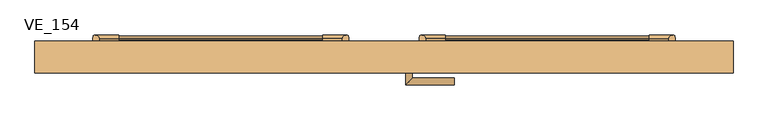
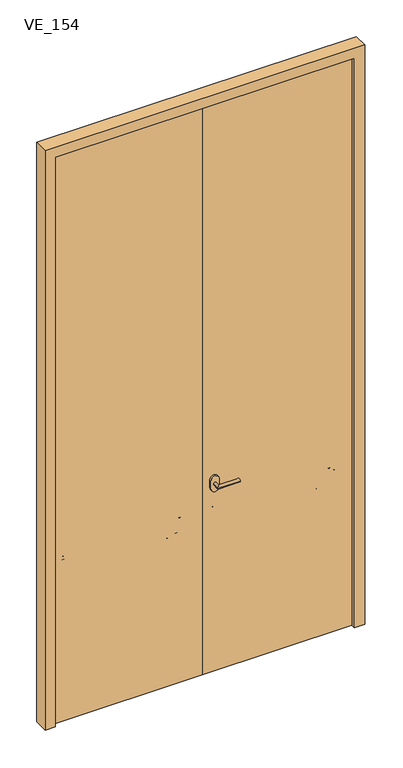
"""IFC4 building model written with IfcOpenShell, lengths in millimetres: door geometry, TRP_CP_ARC_PO_2B_RE : VE_154."""

import ifcopenshell
import ifcopenshell.guid

model = None  # the IFC model being written
_history = None  # IfcOwnerHistory: only IFC2X3 demands one
_inside = {}  # id of a spatial element -> (the spatial element, [elements in it])
_under = {}  # id of a project, library or spatial element -> (it, [spatial elements below it])
_declared = {}  # id of a project -> (the project, [libraries it declares])
_typed = {}  # id of a type object -> (the type object, [elements of that type])
_made_of = {}  # id of a material, layer set ... -> (it, [elements and type objects made of it])


def new_model(schema):
    """Start an empty IFC model of exactly this schema.

    Asked for "IFC4X3", IfcOpenShell would pick the latest addendum, in which some entities
    have other attributes; the version numbers below select the first issue.
    IFC2X3 requires an IfcOwnerHistory on every rooted entity: one is made here for all.
    """
    global model, _history
    if schema == "IFC4X3":
        model = ifcopenshell.file(schema_version=(4, 3, 0, 0))
    else:
        model = ifcopenshell.file(schema=schema)
    _inside.clear()
    _under.clear()
    _declared.clear()
    _typed.clear()
    _made_of.clear()
    _history = None
    if model.schema == "IFC2X3":
        org = make("IfcOrganization", Name="unknown")
        user = make(
            "IfcPersonAndOrganization",
            ThePerson=make("IfcPerson", FamilyName="unknown"),
            TheOrganization=org,
        )
        app = make(
            "IfcApplication",
            ApplicationDeveloper=org,
            Version="unknown",
            ApplicationFullName="unknown",
            ApplicationIdentifier="unknown",
        )
        _history = make(
            "IfcOwnerHistory",
            OwningUser=user,
            OwningApplication=app,
            ChangeAction="ADDED",
            CreationDate=0,
        )
    return model


def make(cls, **values):
    """One entity of the class cls with the attributes given. An attribute that is None is left unset."""
    return model.create_entity(
        cls, **{name: value for name, value in values.items() if value is not None}
    )


def rooted(cls, **values):
    """An entity with a GlobalId (a new one), such as an element, a storey or a relation."""
    return make(cls, GlobalId=ifcopenshell.guid.new(), OwnerHistory=_history, **values)


def si_unit(unit_type, name, prefix=None):
    """IfcSIUnit, for example si_unit("LENGTHUNIT", "METRE", prefix="MILLI")."""
    return make("IfcSIUnit", UnitType=unit_type, Prefix=prefix, Name=name)


def assignment(units):
    """IfcUnitAssignment: the units of a project."""
    return None if units is None else make("IfcUnitAssignment", Units=units)


def point(xyz):
    """IfcCartesianPoint."""
    return None if xyz is None else make("IfcCartesianPoint", Coordinates=xyz)


def direction(xyz):
    """IfcDirection."""
    return None if xyz is None else make("IfcDirection", DirectionRatios=xyz)


def frame(location, z_axis=None, x_axis=None):
    """IfcAxis2Placement3D, a coordinate frame: its origin and axes. An axis left out is left unset."""
    return make(
        "IfcAxis2Placement3D",
        Location=point(location),
        Axis=direction(z_axis),
        RefDirection=direction(x_axis),
    )


def frame_2d(location, x_axis=None):
    """IfcAxis2Placement2D, a coordinate frame in the plane: its origin and x axis."""
    return make(
        "IfcAxis2Placement2D", Location=point(location), RefDirection=direction(x_axis)
    )


def origin():
    """The frame at (0, 0, 0) with its axes left unset."""
    return frame((0.0, 0.0, 0.0))


def origin_with_axes():
    """The frame at (0, 0, 0) with the z axis (0, 0, 1) and the x axis (1, 0, 0) written out."""
    return frame((0.0, 0.0, 0.0), z_axis=(0.0, 0.0, 1.0), x_axis=(1.0, 0.0, 0.0))


def place(relative_to, where):
    """IfcLocalPlacement: puts the frame where relative to a parent placement (None: the world)."""
    return make(
        "IfcLocalPlacement", PlacementRelTo=relative_to, RelativePlacement=where
    )


def context(
    kind, dimensions, precision=None, world=None, true_north=None, identifier=None
):
    """IfcGeometricRepresentationContext, for example the 3D "Model" context."""
    return make(
        "IfcGeometricRepresentationContext",
        ContextIdentifier=identifier,
        ContextType=kind,
        CoordinateSpaceDimension=dimensions,
        Precision=precision,
        WorldCoordinateSystem=world,
        TrueNorth=true_north,
    )


def project(units=None, contexts=None):
    """IfcProject with its units and contexts."""
    return rooted(
        "IfcProject",
        Name="project",
        RepresentationContexts=contexts,
        UnitsInContext=assignment(units),
    )


def spatial(cls, under=None, at=None, **own):
    """A site, building, storey or space (cls), placed at a placement, below another one or the project."""
    s = rooted(cls, ObjectPlacement=at, **own)
    if under is not None:
        _under.setdefault(under.id(), (under, []))[1].append(s)
    return s


def polyline(points):
    """IfcPolyline through the points."""
    return make("IfcPolyline", Points=[point(p) for p in points])


def circle_curve(where, radius):
    """IfcCircle in the frame where."""
    return make("IfcCircle", Position=where, Radius=radius)


def ellipse_curve(where, semi_axis1, semi_axis2):
    """IfcEllipse in the frame where."""
    return make(
        "IfcEllipse", Position=where, SemiAxis1=semi_axis1, SemiAxis2=semi_axis2
    )


def trimmed(basis, trim1, trim2, sense, master):
    """IfcTrimmedCurve: the piece of a basis curve between two trims."""
    return make(
        "IfcTrimmedCurve",
        BasisCurve=basis,
        Trim1=trim1,
        Trim2=trim2,
        SenseAgreement=sense,
        MasterRepresentation=master,
    )


def segment(curve, same_sense, transition):
    """IfcCompositeCurveSegment."""
    return make(
        "IfcCompositeCurveSegment",
        Transition=transition,
        SameSense=same_sense,
        ParentCurve=curve,
    )


def composite_curve(segments, self_intersect=None):
    """IfcCompositeCurve: segments joined end to end."""
    return make("IfcCompositeCurve", Segments=segments, SelfIntersect=self_intersect)


def outline(outer, holes=None, kind="AREA"):
    """IfcArbitraryClosedProfileDef: a profile drawn as a closed curve; with holes, ...WithVoids."""
    if holes is None:
        return make("IfcArbitraryClosedProfileDef", ProfileType=kind, OuterCurve=outer)
    return make(
        "IfcArbitraryProfileDefWithVoids",
        ProfileType=kind,
        OuterCurve=outer,
        InnerCurves=holes,
    )


def extrude(swept, where, along, depth):
    """IfcExtrudedAreaSolid: the profile swept, set in the frame where, extruded along a direction by depth."""
    return make(
        "IfcExtrudedAreaSolid",
        SweptArea=swept,
        Position=where,
        ExtrudedDirection=direction(along),
        Depth=depth,
    )


def shape(context_of_items, identifier, shape_type, items):
    """IfcShapeRepresentation: the items that make up one representation, for example the "Body"."""
    return make(
        "IfcShapeRepresentation",
        ContextOfItems=context_of_items,
        RepresentationIdentifier=identifier,
        RepresentationType=shape_type,
        Items=items,
    )


def source(mapping_origin, context_of_items, identifier, shape_type, items):
    """IfcRepresentationMap: a shape defined once, which mapped items show again and again."""
    return make(
        "IfcRepresentationMap",
        MappingOrigin=mapping_origin,
        MappedRepresentation=shape(context_of_items, identifier, shape_type, items),
    )


def transform(
    local_origin,
    x_axis=None,
    y_axis=None,
    z_axis=None,
    scale=None,
    scale2=None,
    scale3=None,
    uniform=True,
):
    """IfcCartesianTransformationOperator3D, or its non-uniform kind. x_axis, y_axis, z_axis: its Axis1, 2, 3."""
    if uniform:
        return make(
            "IfcCartesianTransformationOperator3D",
            Axis1=direction(x_axis),
            Axis2=direction(y_axis),
            LocalOrigin=point(local_origin),
            Scale=scale,
            Axis3=direction(z_axis),
        )
    return make(
        "IfcCartesianTransformationOperator3DnonUniform",
        Axis1=direction(x_axis),
        Axis2=direction(y_axis),
        LocalOrigin=point(local_origin),
        Scale=scale,
        Axis3=direction(z_axis),
        Scale2=scale2,
        Scale3=scale3,
    )


def mapped(mapping_source, mapping_target):
    """IfcMappedItem: shows the shape of a source again, moved by a transform."""
    return make(
        "IfcMappedItem", MappingSource=mapping_source, MappingTarget=mapping_target
    )


def made_of(thing, what):
    """Note that an element or type object is made of a material, layer set ...; save() writes the relation."""
    if what is not None:
        _made_of.setdefault(what.id(), (what, []))[1].append(thing)
    return thing


def element(
    cls,
    number,
    at=None,
    inside=None,
    cuts=None,
    type_object=None,
    material=None,
    context=None,
    identifier="Body",
    shape_type=None,
    held_by="IfcProductDefinitionShape",
    body=None,
    shapes=None,
    **own,
):
    """One element of the class cls, such as IfcWall. Its Tag is "e" and its number.

    at: its placement. inside: the storey or other place that contains it. cuts: it is an
    opening in that element (IfcRelVoidsElement). A single representation is given by context,
    identifier, shape_type and body (its items); several are given by shapes. held_by: the class
    of the entity that holds the representations. save() writes the other relations.
    """
    e = rooted(cls, Tag="e%d" % number, ObjectPlacement=at, **own)
    if body is not None:
        shapes = [shape(context, identifier, shape_type, body)]
    if shapes is not None:
        e.Representation = make(held_by, Representations=shapes)
    if inside is not None:
        _inside.setdefault(inside.id(), (inside, []))[1].append(e)
    if cuts is not None:
        rooted(
            "IfcRelVoidsElement", RelatingBuildingElement=cuts, RelatedOpeningElement=e
        )
    if type_object is not None:
        _typed.setdefault(type_object.id(), (type_object, []))[1].append(e)
    return made_of(e, material)


def aggregate(whole, parts):
    """IfcRelAggregates: a whole, such as a stair, and the parts it consists of."""
    return rooted("IfcRelAggregates", RelatingObject=whole, RelatedObjects=parts)


def save(model, path):
    """Write the relations noted so far, then the file.

    IfcRelAggregates (storeys below a building ...), IfcRelContainedInSpatialStructure (elements
    in a storey), IfcRelDefinesByType, IfcRelAssociatesMaterial and IfcRelDeclares: one each for
    every whole, place, type object, material and project.
    """
    for whole, parts in _under.values():
        aggregate(whole, parts)
    for where, things in _inside.values():
        rooted(
            "IfcRelContainedInSpatialStructure",
            RelatedElements=things,
            RelatingStructure=where,
        )
    for kind, things in _typed.values():
        rooted("IfcRelDefinesByType", RelatedObjects=things, RelatingType=kind)
    for what, things in _made_of.values():
        rooted("IfcRelAssociatesMaterial", RelatedObjects=things, RelatingMaterial=what)
    for by, libraries in _declared.values():
        rooted("IfcRelDeclares", RelatingContext=by, RelatedDefinitions=libraries)
    model.write(path)


def plane_surface(at):
    """IfcPlane: the flat surface through the origin of the frame at, square to its z axis."""
    return make("IfcPlane", Position=at)


def cylinder_surface(at, radius):
    """IfcCylindricalSurface: all points at the distance radius from the z axis of the frame at."""
    return make("IfcCylindricalSurface", Position=at, Radius=radius)


def advanced_brep(points, edges, surfaces, faces):
    """IfcAdvancedBrep: a solid bounded by faces that lie on surfaces and meet in shared edges.

    An edge is (start, end): straight between two places in points (the first is 0);
    or (start, end, curve); or (start, end, curve, False) where it runs against its curve.
    A face is (place in surfaces, loops), or (place, loops, False) where it looks against
    its surface's normal. A loop lists edges by number (the first is 1), with a minus sign
    where the edge is run from its end to its start. The first loop is the outer one.
    """
    corners = [point(p) for p in points]
    vertices = [make("IfcVertexPoint", VertexGeometry=c) for c in corners]
    made = []
    for start, end, *more in edges:
        made.append(
            make(
                "IfcEdgeCurve",
                EdgeStart=vertices[start],
                EdgeEnd=vertices[end],
                EdgeGeometry=more[0] if more else make("IfcPolyline", Points=[corners[start], corners[end]]),
                SameSense=more[1] if len(more) > 1 else True,
            )
        )
    hull = []
    for where, loops, *sense in faces:
        bounds = []
        for j, loop in enumerate(loops):
            ring = [make("IfcOrientedEdge", EdgeElement=made[abs(k) - 1], Orientation=k > 0) for k in loop]
            bounds.append(
                make(
                    "IfcFaceOuterBound" if j == 0 else "IfcFaceBound",
                    Bound=make("IfcEdgeLoop", EdgeList=ring),
                    Orientation=True,
                )
            )
        hull.append(make("IfcAdvancedFace", Bounds=bounds, FaceSurface=surfaces[where], SameSense=sense[0] if sense else True))
    return make("IfcAdvancedBrep", Outer=make("IfcClosedShell", CfsFaces=hull))


def ve_154_32acc332(model_context):
    return source(origin(), model_context, "Body", "SolidModel", [
        advanced_brep(
        [(62.5, -25.0, 960.0), (47.5, -25.0, 960.0), (47.5, -60.8278773, 960.0), (62.5, -45.8278773, 960.0), (155.0, -45.8278773, 960.0), (155.0, -60.8278773, 960.0)],
        [
            (0, 1, circle_curve(frame((55.0, -25.0, 960.0), z_axis=(0.0, 1.0, 0.0), x_axis=(-1.0, 0.0, 0.0)), 7.5)),
            (1, 0, circle_curve(frame((55.0, -25.0, 960.0), z_axis=(0.0, 1.0, 0.0), x_axis=(-1.0, 0.0, 0.0)), 7.5)),
            (1, 2),
            (2, 3, ellipse_curve(frame((55.0, -53.3278773, 960.0), z_axis=(-0.7071067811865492, 0.7071067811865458, 0.0), x_axis=(0.7071067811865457, 0.7071067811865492, 0.0)), 10.6066017, 7.5)),
            (3, 0),
            (3, 2, ellipse_curve(frame((55.0, -53.3278773, 960.0), z_axis=(-0.7071067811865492, 0.7071067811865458, 0.0), x_axis=(0.7071067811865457, 0.7071067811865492, 0.0)), 10.6066017, 7.5)),
            (4, 5, circle_curve(frame((155.0, -53.3278773, 960.0), z_axis=(1.0, 0.0, 0.0), x_axis=(0.0, -1.0, 0.0)), 7.5)),
            (5, 4, circle_curve(frame((155.0, -53.3278773, 960.0), z_axis=(1.0, 0.0, 0.0), x_axis=(0.0, -1.0, 0.0)), 7.5)),
            (2, 5),
            (4, 3),
        ],
        [
            plane_surface(frame((55.0, -25.0, 960.0), z_axis=(0.0, 1.0, 0.0), x_axis=(0.0, 0.0, 1.0))),
            cylinder_surface(frame((55.0, -25.0, 960.0), z_axis=(0.0, 1.0, 0.0), x_axis=(-1.0, 0.0, 0.0)), 7.5),
            plane_surface(frame((155.0, -53.3278773, 960.0), z_axis=(1.0, 0.0, 0.0), x_axis=(0.0, 0.0, 1.0))),
            cylinder_surface(frame((55.0, -53.3278773, 960.0), z_axis=(-1.0, 0.0, 0.0), x_axis=(0.0, -1.0, 0.0)), 7.5),
        ],
        [
            (0, [[1, 2]]),
            (1, [[3, 4, 5, -2]]),
            (1, [[-5, 6, -3, -1]]),
            (2, [[7, 8]]),
            (3, [[9, -7, 10, -4]]),
            (3, [[-10, -8, -9, -6]]),
        ],
    ),
        extrude(outline(composite_curve([segment(polyline([(980.0, 35.0), (940.0, 35.0)]), True, "CONTINUOUS"), segment(trimmed(circle_curve(frame_2d((940.0, 55.0)), 20.0), [point((940.0, 35.0))], [point((940.0, 75.0))], False, "CARTESIAN"), True, "CONTINUOUS"), segment(polyline([(940.0, 75.0), (980.0, 75.0)]), True, "CONTINUOUS"), segment(trimmed(circle_curve(frame_2d((980.0, 55.0)), 20.0), [point((980.0, 75.0))], [point((980.0, 35.0))], False, "CARTESIAN"), True, "CONTINUOUS")], self_intersect=False)), frame((0.0, -25.0, 0.0), z_axis=(0.0, 1.0, 0.0), x_axis=(0.0, 0.0, 1.0)), (0.0, 0.0, 1.0), 10.0),
        extrude(outline(composite_curve([segment(trimmed(circle_curve(frame_2d((42.7909535, 712.1255149)), 4.0), [point((42.7909535, 708.1255149))], [point((42.7909535, 716.1255149))], False, "CARTESIAN"), True, "CONTINUOUS"), segment(trimmed(circle_curve(frame_2d((42.7909535, 712.1255149)), 4.0), [point((42.7909535, 716.1255149))], [point((42.7909535, 708.1255149))], False, "CARTESIAN"), True, "CONTINUOUS")], self_intersect=False)), frame((135.0, 0.0, 0.0), z_axis=(1.0, 0.0, 0.0), x_axis=(0.0, 1.0, 0.0)), (0.0, 0.0, 1.0), 450.0),
        advanced_brep(
        [(70.0, 22.2081415, 806.9003665), (70.0, 25.137835, 793.2103374), (78.0, 25.137835, 793.2103374), (92.0, 22.2081415, 806.9003665), (78.0, 43.9715789, 705.2030077), (92.0, 41.0418854, 718.8930367), (135.0, 41.0418854, 718.8930367), (135.0, 43.9715789, 705.2030077)],
        [
            (0, 1, circle_curve(frame((70.0, 23.6729883, 800.055352), z_axis=(-1.0, 0.0, 0.0), x_axis=(0.0, 0.20926382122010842, -0.9778592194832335)), 7.0)),
            (1, 0, circle_curve(frame((70.0, 23.6729883, 800.055352), z_axis=(-1.0, 0.0, 0.0), x_axis=(0.0, 0.20926382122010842, -0.9778592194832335)), 7.0)),
            (1, 2),
            (2, 3, ellipse_curve(frame((85.0, 23.6729883, 800.055352), z_axis=(-0.7071067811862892, -0.14797186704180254, 0.6914508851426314), x_axis=(-0.7071067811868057, 0.14797186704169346, -0.6914508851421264)), 9.8994949, 7.0)),
            (3, 0),
            (3, 2, ellipse_curve(frame((85.0, 23.6729883, 800.055352), z_axis=(-0.7071067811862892, -0.14797186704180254, 0.6914508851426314), x_axis=(-0.7071067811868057, 0.14797186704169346, -0.6914508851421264)), 9.8994949, 7.0)),
            (2, 4),
            (4, 5, ellipse_curve(frame((85.0, 42.5067322, 712.0480222), z_axis=(-0.7071067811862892, -0.1479718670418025, 0.6914508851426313), x_axis=(0.7071067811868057, -0.14797186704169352, 0.6914508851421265)), 9.8994949, 7.0)),
            (5, 3),
            (5, 4, ellipse_curve(frame((85.0, 42.5067322, 712.0480222), z_axis=(-0.7071067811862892, -0.1479718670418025, 0.6914508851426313), x_axis=(0.7071067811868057, -0.14797186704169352, 0.6914508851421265)), 9.8994949, 7.0)),
            (6, 7, circle_curve(frame((135.0, 42.5067322, 712.0480222), z_axis=(1.0, 0.0, 0.0), x_axis=(0.0, 0.2092638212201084, -0.9778592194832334)), 7.0)),
            (7, 6, circle_curve(frame((135.0, 42.5067322, 712.0480222), z_axis=(1.0, 0.0, 0.0), x_axis=(0.0, 0.2092638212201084, -0.9778592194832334)), 7.0)),
            (4, 7),
            (6, 5),
        ],
        [
            plane_surface(frame((70.0, -4.3595447, 794.056334), z_axis=(-1.0, 0.0, 0.0), x_axis=(0.0, 0.9778592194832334, 0.20926382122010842))),
            cylinder_surface(frame((70.0, 23.6729883, 800.055352), z_axis=(-1.0000000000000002, 0.0, 0.0), x_axis=(0.0, 0.20926382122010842, -0.9778592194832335)), 7.0),
            cylinder_surface(frame((85.0, 23.6729883, 800.055352), z_axis=(0.0, -0.20926382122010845, 0.9778592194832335), x_axis=(-1.0, 0.0, 0.0)), 7.0),
            plane_surface(frame((135.0, 14.4741992, 706.0490043), z_axis=(1.0, 0.0, 0.0), x_axis=(0.0, 0.9778592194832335, 0.2092638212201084))),
            cylinder_surface(frame((85.0, 42.5067322, 712.0480222), z_axis=(-1.0, 0.0, 0.0), x_axis=(0.0, 0.2092638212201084, -0.9778592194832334)), 7.0),
        ],
        [
            (0, [[1, 2]]),
            (1, [[-2, 3, 4, 5]]),
            (1, [[-1, -5, 6, -3]]),
            (2, [[-4, 7, 8, 9]]),
            (2, [[-6, -9, 10, -7]]),
            (3, [[11, 12]]),
            (4, [[-8, 13, -11, 14]]),
            (4, [[-10, -14, -12, -13]]),
        ],
    ),
        advanced_brep(
        [(650.0, 25.137835, 793.2103374), (650.0, 22.2081415, 806.9003665), (642.0, 25.137835, 793.2103374), (628.0, 22.2081415, 806.9003665), (642.0, 43.9715789, 705.2030077), (628.0, 41.0418854, 718.8930367), (585.0, 43.9715789, 705.2030077), (585.0, 41.0418854, 718.8930367)],
        [
            (0, 1, circle_curve(frame((650.0, 23.6729883, 800.055352), z_axis=(1.0, 0.0, 0.0), x_axis=(0.0, -0.20926382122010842, 0.9778592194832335)), 7.0)),
            (1, 0, circle_curve(frame((650.0, 23.6729883, 800.055352), z_axis=(1.0, 0.0, 0.0), x_axis=(0.0, -0.20926382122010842, 0.9778592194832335)), 7.0)),
            (0, 2),
            (2, 3, ellipse_curve(frame((635.0, 23.6729883, 800.055352), z_axis=(0.7071067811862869, -0.14797186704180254, 0.6914508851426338), x_axis=(0.7071067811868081, 0.14797186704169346, -0.6914508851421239)), 9.8994949, 7.0)),
            (3, 1),
            (3, 2, ellipse_curve(frame((635.0, 23.6729883, 800.055352), z_axis=(0.7071067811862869, -0.14797186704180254, 0.6914508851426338), x_axis=(0.7071067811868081, 0.14797186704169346, -0.6914508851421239)), 9.8994949, 7.0)),
            (2, 4),
            (4, 5, ellipse_curve(frame((635.0, 42.5067322, 712.0480222), z_axis=(0.7071067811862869, -0.14797186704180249, 0.6914508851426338), x_axis=(-0.7071067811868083, -0.1479718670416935, 0.691450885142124)), 9.8994949, 7.0)),
            (5, 3),
            (5, 4, ellipse_curve(frame((635.0, 42.5067322, 712.0480222), z_axis=(0.7071067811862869, -0.14797186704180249, 0.6914508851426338), x_axis=(-0.7071067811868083, -0.1479718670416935, 0.691450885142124)), 9.8994949, 7.0)),
            (6, 7, circle_curve(frame((585.0, 42.5067322, 712.0480222), z_axis=(-1.0, 0.0, 0.0), x_axis=(0.0, -0.20926382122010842, 0.9778592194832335)), 7.0)),
            (7, 6, circle_curve(frame((585.0, 42.5067322, 712.0480222), z_axis=(-1.0, 0.0, 0.0), x_axis=(0.0, -0.20926382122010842, 0.9778592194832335)), 7.0)),
            (4, 6),
            (7, 5),
        ],
        [
            plane_surface(frame((650.0, -4.3595447, 794.056334), z_axis=(1.0000000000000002, 0.0, 0.0), x_axis=(0.0, 0.9778592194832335, 0.20926382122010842))),
            cylinder_surface(frame((650.0, 23.6729883, 800.055352), z_axis=(1.0000000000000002, 0.0, 0.0), x_axis=(0.0, -0.20926382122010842, 0.9778592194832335)), 7.0),
            cylinder_surface(frame((635.0, 23.6729883, 800.055352), z_axis=(0.0, -0.20926382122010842, 0.9778592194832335), x_axis=(-1.0, 0.0, 0.0)), 7.0),
            plane_surface(frame((585.0, 14.4741992, 706.0490043), z_axis=(-1.0000000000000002, 0.0, 0.0), x_axis=(0.0, 0.9778592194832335, 0.20926382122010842))),
            cylinder_surface(frame((635.0, 42.5067322, 712.0480222), z_axis=(1.0000000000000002, 0.0, 0.0), x_axis=(0.0, -0.20926382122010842, 0.9778592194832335)), 7.0),
        ],
        [
            (0, [[1, 2]]),
            (1, [[-1, 3, 4, 5]]),
            (1, [[-2, -5, 6, -3]]),
            (2, [[-4, 7, 8, 9]]),
            (2, [[-6, -9, 10, -7]]),
            (3, [[11, 12]]),
            (4, [[-8, 13, -12, 14]]),
            (4, [[-10, -14, -11, -13]]),
        ],
    ),
        extrude(outline(composite_curve([segment(trimmed(circle_curve(frame_2d((23.7850211, 800.0)), 7.9999872), [point((23.7850211, 807.9999872))], [point((23.7850211, 792.0000128))], False, "CARTESIAN"), True, "CONTINUOUS"), segment(trimmed(circle_curve(frame_2d((23.7850211, 800.0)), 7.9999872), [point((23.7850211, 792.0000128))], [point((23.7850211, 807.9999872))], False, "CARTESIAN"), True, "CONTINUOUS")], self_intersect=False)), frame((65.0, 0.0, 0.0), z_axis=(1.0, 0.0, 0.0), x_axis=(0.0, 1.0, 0.0)), (0.0, 0.0, 1.0), 5.0),
        extrude(outline(composite_curve([segment(trimmed(circle_curve(frame_2d((23.7993127, 800.0)), 8.0), [point((23.7993127, 792.0))], [point((23.7993127, 808.0))], False, "CARTESIAN"), True, "CONTINUOUS"), segment(trimmed(circle_curve(frame_2d((23.7993127, 800.0)), 8.0), [point((23.7993127, 808.0))], [point((23.7993127, 792.0))], False, "CARTESIAN"), True, "CONTINUOUS")], self_intersect=False)), frame((650.0, 0.0, 0.0), z_axis=(1.0, 0.0, 0.0), x_axis=(0.0, 1.0, 0.0)), (0.0, 0.0, 1.0), 5.0),
        extrude(outline(composite_curve([segment(trimmed(circle_curve(frame_2d((-78.1832138, 800.0)), 113.1859235), [point((25.0, 846.5217978))], [point((25.0, 753.4782022))], False, "CARTESIAN"), True, "CONTINUOUS"), segment(polyline([(25.0, 753.4782022), (15.0, 753.4782022), (15.0, 846.5217978), (25.0, 846.5217978)]), True, "CONTINUOUS")], self_intersect=False)), frame((655.0, 0.0, 0.0), z_axis=(1.0, 0.0, 0.0), x_axis=(0.0, 1.0, 0.0)), (0.0, 0.0, 1.0), 30.0),
        extrude(outline(composite_curve([segment(trimmed(circle_curve(frame_2d((-78.1832138, 800.0)), 113.1859235), [point((25.0, 846.5217978))], [point((25.0, 753.4782022))], False, "CARTESIAN"), True, "CONTINUOUS"), segment(polyline([(25.0, 753.4782022), (15.0, 753.4782022), (15.0, 846.5217978), (25.0, 846.5217978)]), True, "CONTINUOUS")], self_intersect=False)), frame((35.0, 0.0, 0.0), z_axis=(1.0, 0.0, 0.0), x_axis=(0.0, 1.0, 0.0)), (0.0, 0.0, 1.0), 30.0),
        extrude(outline(composite_curve([segment(trimmed(circle_curve(frame_2d((42.7909535, 712.1255149)), 4.0), [point((42.7909535, 708.1255149))], [point((42.7909535, 716.1255149))], False, "CARTESIAN"), True, "CONTINUOUS"), segment(trimmed(circle_curve(frame_2d((42.7909535, 712.1255149)), 4.0), [point((42.7909535, 716.1255149))], [point((42.7909535, 708.1255149))], False, "CARTESIAN"), True, "CONTINUOUS")], self_intersect=False)), frame((-585.0, 0.0, 0.0), z_axis=(1.0, 0.0, 0.0), x_axis=(0.0, 1.0, 0.0)), (0.0, 0.0, 1.0), 450.0),
        advanced_brep(
        [(-70.0, 22.2081415, 806.9003665), (-70.0, 25.137835, 793.2103374), (-92.0, 22.2081415, 806.9003665), (-78.0, 25.137835, 793.2103374), (-92.0, 41.0418854, 718.8930367), (-78.0, 43.9715789, 705.2030077), (-135.0, 41.0418854, 718.8930367), (-135.0, 43.9715789, 705.2030077)],
        [
            (0, 1, circle_curve(frame((-70.0, 23.6729883, 800.055352), z_axis=(1.0, 0.0, 0.0), x_axis=(0.0, 0.20926382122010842, -0.9778592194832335)), 7.0)),
            (1, 0, circle_curve(frame((-70.0, 23.6729883, 800.055352), z_axis=(1.0, 0.0, 0.0), x_axis=(0.0, 0.20926382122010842, -0.9778592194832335)), 7.0)),
            (0, 2),
            (2, 3, ellipse_curve(frame((-85.0, 23.6729883, 800.055352), z_axis=(0.7071067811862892, -0.14797186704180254, 0.6914508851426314), x_axis=(0.7071067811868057, 0.14797186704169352, -0.6914508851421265)), 9.8994949, 7.0)),
            (3, 1),
            (3, 2, ellipse_curve(frame((-85.0, 23.6729883, 800.055352), z_axis=(0.7071067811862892, -0.14797186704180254, 0.6914508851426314), x_axis=(0.7071067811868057, 0.14797186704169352, -0.6914508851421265)), 9.8994949, 7.0)),
            (2, 4),
            (4, 5, ellipse_curve(frame((-85.0, 42.5067322, 712.0480222), z_axis=(0.7071067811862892, -0.1479718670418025, 0.6914508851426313), x_axis=(-0.7071067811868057, -0.14797186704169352, 0.6914508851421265)), 9.8994949, 7.0)),
            (5, 3),
            (5, 4, ellipse_curve(frame((-85.0, 42.5067322, 712.0480222), z_axis=(0.7071067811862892, -0.1479718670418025, 0.6914508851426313), x_axis=(-0.7071067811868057, -0.14797186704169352, 0.6914508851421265)), 9.8994949, 7.0)),
            (6, 7, circle_curve(frame((-135.0, 42.5067322, 712.0480222), z_axis=(-1.0, 0.0, 0.0), x_axis=(0.0, 0.2092638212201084, -0.9778592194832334)), 7.0)),
            (7, 6, circle_curve(frame((-135.0, 42.5067322, 712.0480222), z_axis=(-1.0, 0.0, 0.0), x_axis=(0.0, 0.2092638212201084, -0.9778592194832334)), 7.0)),
            (4, 6),
            (7, 5),
        ],
        [
            plane_surface(frame((-70.0, -4.3595447, 794.056334), z_axis=(1.0, 0.0, 0.0), x_axis=(0.0, 0.9778592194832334, 0.20926382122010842))),
            cylinder_surface(frame((-70.0, 23.6729883, 800.055352), z_axis=(1.0000000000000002, 0.0, 0.0), x_axis=(0.0, 0.20926382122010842, -0.9778592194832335)), 7.0),
            cylinder_surface(frame((-85.0, 23.6729883, 800.055352), z_axis=(0.0, -0.20926382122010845, 0.9778592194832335), x_axis=(1.0, 0.0, 0.0)), 7.0),
            plane_surface(frame((-135.0, 14.4741992, 706.0490043), z_axis=(-1.0, 0.0, 0.0), x_axis=(0.0, 0.9778592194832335, 0.2092638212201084))),
            cylinder_surface(frame((-85.0, 42.5067322, 712.0480222), z_axis=(1.0, 0.0, 0.0), x_axis=(0.0, 0.2092638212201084, -0.9778592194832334)), 7.0),
        ],
        [
            (0, [[1, 2]]),
            (1, [[3, 4, 5, -1]]),
            (1, [[-5, 6, -3, -2]]),
            (2, [[7, 8, 9, -4]]),
            (2, [[-9, 10, -7, -6]]),
            (3, [[11, 12]]),
            (4, [[13, -12, 14, -8]]),
            (4, [[-14, -11, -13, -10]]),
        ],
    ),
        advanced_brep(
        [(-650.0, 25.137835, 793.2103374), (-650.0, 22.2081415, 806.9003665), (-628.0, 22.2081415, 806.9003665), (-642.0, 25.137835, 793.2103374), (-628.0, 41.0418854, 718.8930367), (-642.0, 43.9715789, 705.2030077), (-585.0, 43.9715789, 705.2030077), (-585.0, 41.0418854, 718.8930367)],
        [
            (0, 1, circle_curve(frame((-650.0, 23.6729883, 800.055352), z_axis=(-1.0, 0.0, 0.0), x_axis=(0.0, -0.20926382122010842, 0.9778592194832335)), 7.0)),
            (1, 0, circle_curve(frame((-650.0, 23.6729883, 800.055352), z_axis=(-1.0, 0.0, 0.0), x_axis=(0.0, -0.20926382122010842, 0.9778592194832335)), 7.0)),
            (1, 2),
            (2, 3, ellipse_curve(frame((-635.0, 23.6729883, 800.055352), z_axis=(-0.7071067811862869, -0.14797186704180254, 0.6914508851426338), x_axis=(-0.7071067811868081, 0.14797186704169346, -0.6914508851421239)), 9.8994949, 7.0)),
            (3, 0),
            (3, 2, ellipse_curve(frame((-635.0, 23.6729883, 800.055352), z_axis=(-0.7071067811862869, -0.14797186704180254, 0.6914508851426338), x_axis=(-0.7071067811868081, 0.14797186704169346, -0.6914508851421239)), 9.8994949, 7.0)),
            (2, 4),
            (4, 5, ellipse_curve(frame((-635.0, 42.5067322, 712.0480222), z_axis=(-0.7071067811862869, -0.14797186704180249, 0.6914508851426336), x_axis=(0.7071067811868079, -0.14797186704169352, 0.6914508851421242)), 9.8994949, 7.0)),
            (5, 3),
            (5, 4, ellipse_curve(frame((-635.0, 42.5067322, 712.0480222), z_axis=(-0.7071067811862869, -0.14797186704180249, 0.6914508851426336), x_axis=(0.7071067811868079, -0.14797186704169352, 0.6914508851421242)), 9.8994949, 7.0)),
            (6, 7, circle_curve(frame((-585.0, 42.5067322, 712.0480222), z_axis=(1.0, 0.0, 0.0), x_axis=(0.0, -0.20926382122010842, 0.9778592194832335)), 7.0)),
            (7, 6, circle_curve(frame((-585.0, 42.5067322, 712.0480222), z_axis=(1.0, 0.0, 0.0), x_axis=(0.0, -0.20926382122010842, 0.9778592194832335)), 7.0)),
            (4, 7),
            (6, 5),
        ],
        [
            plane_surface(frame((-650.0, -4.3595447, 794.056334), z_axis=(-1.0000000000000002, 0.0, 0.0), x_axis=(0.0, 0.9778592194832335, 0.20926382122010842))),
            cylinder_surface(frame((-650.0, 23.6729883, 800.055352), z_axis=(-1.0000000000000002, 0.0, 0.0), x_axis=(0.0, -0.20926382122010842, 0.9778592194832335)), 7.0),
            cylinder_surface(frame((-635.0, 23.6729883, 800.055352), z_axis=(0.0, -0.20926382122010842, 0.9778592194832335), x_axis=(1.0, 0.0, 0.0)), 7.0),
            plane_surface(frame((-585.0, 14.4741992, 706.0490043), z_axis=(1.0000000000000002, 0.0, 0.0), x_axis=(0.0, 0.9778592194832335, 0.20926382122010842))),
            cylinder_surface(frame((-635.0, 42.5067322, 712.0480222), z_axis=(-1.0000000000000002, 0.0, 0.0), x_axis=(0.0, -0.20926382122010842, 0.9778592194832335)), 7.0),
        ],
        [
            (0, [[1, 2]]),
            (1, [[3, 4, 5, -2]]),
            (1, [[-5, 6, -3, -1]]),
            (2, [[7, 8, 9, -4]]),
            (2, [[-9, 10, -7, -6]]),
            (3, [[11, 12]]),
            (4, [[13, -11, 14, -8]]),
            (4, [[-14, -12, -13, -10]]),
        ],
    ),
        extrude(outline(composite_curve([segment(trimmed(circle_curve(frame_2d((23.7850211, 800.0)), 7.9999872), [point((23.7850211, 807.9999872))], [point((23.7850211, 792.0000128))], False, "CARTESIAN"), True, "CONTINUOUS"), segment(trimmed(circle_curve(frame_2d((23.7850211, 800.0)), 7.9999872), [point((23.7850211, 792.0000128))], [point((23.7850211, 807.9999872))], False, "CARTESIAN"), True, "CONTINUOUS")], self_intersect=False)), frame((-70.0, 0.0, 0.0), z_axis=(1.0, 0.0, 0.0), x_axis=(0.0, 1.0, 0.0)), (0.0, 0.0, 1.0), 5.0),
        extrude(outline(composite_curve([segment(trimmed(circle_curve(frame_2d((23.7993127, 800.0)), 8.0), [point((23.7993127, 792.0))], [point((23.7993127, 808.0))], False, "CARTESIAN"), True, "CONTINUOUS"), segment(trimmed(circle_curve(frame_2d((23.7993127, 800.0)), 8.0), [point((23.7993127, 808.0))], [point((23.7993127, 792.0))], False, "CARTESIAN"), True, "CONTINUOUS")], self_intersect=False)), frame((-655.0, 0.0, 0.0), z_axis=(1.0, 0.0, 0.0), x_axis=(0.0, 1.0, 0.0)), (0.0, 0.0, 1.0), 5.0),
        extrude(outline(composite_curve([segment(trimmed(circle_curve(frame_2d((-78.1832138, 800.0)), 113.1859235), [point((25.0, 846.5217978))], [point((25.0, 753.4782022))], False, "CARTESIAN"), True, "CONTINUOUS"), segment(polyline([(25.0, 753.4782022), (15.0, 753.4782022), (15.0, 846.5217978), (25.0, 846.5217978)]), True, "CONTINUOUS")], self_intersect=False)), frame((-685.0, 0.0, 0.0), z_axis=(1.0, 0.0, 0.0), x_axis=(0.0, 1.0, 0.0)), (0.0, 0.0, 1.0), 30.0),
        extrude(outline(composite_curve([segment(trimmed(circle_curve(frame_2d((-78.1832138, 800.0)), 113.1859235), [point((25.0, 846.5217978))], [point((25.0, 753.4782022))], False, "CARTESIAN"), True, "CONTINUOUS"), segment(polyline([(25.0, 753.4782022), (15.0, 753.4782022), (15.0, 846.5217978), (25.0, 846.5217978)]), True, "CONTINUOUS")], self_intersect=False)), frame((-65.0, 0.0, 0.0), z_axis=(1.0, 0.0, 0.0), x_axis=(0.0, 1.0, 0.0)), (0.0, 0.0, 1.0), 30.0),
        extrude(outline(polyline([(0.0, 15.0), (0.0, -15.0), (-720.0, -15.0), (-720.0, 15.0), (0.0, 15.0)])), origin_with_axes(), (0.0, 0.0, 1.0), 2900.0231001),
        extrude(outline(polyline([(720.0, 15.0), (720.0, -15.0), (0.0, -15.0), (0.0, 15.0), (720.0, 15.0)])), origin_with_axes(), (0.0, 0.0, 1.0), 2900.0231001),
        extrude(outline(polyline([(0.0, 770.0), (2950.0231001, 770.0), (2950.0231001, -770.0), (0.0, -770.0), (0.0, -720.0), (2900.0231001, -720.0), (2900.0231001, 720.0), (0.0, 720.0), (0.0, 770.0)])), frame((0.0, -35.0, 0.0), z_axis=(0.0, 1.0, 0.0), x_axis=(0.0, 0.0, 1.0)), (0.0, 0.0, 1.0), 70.0),
    ])


if __name__ == "__main__":
    model = new_model("IFC4")
    model_context = context("Model", 3, world=origin())
    ifc_project = project(units=[si_unit("LENGTHUNIT", "METRE", prefix="MILLI")], contexts=[model_context])
    site = spatial("IfcSite", under=ifc_project)
    building = spatial("IfcBuilding", under=site)
    placement = place(None, origin())
    ve_154_shape = ve_154_32acc332(model_context)
    element("IfcDoor", 1, ObjectType="TRP_CP_ARC_PO_2B_RE : VE_154", at=placement, inside=building, context=model_context, shape_type="MappedRepresentation", body=[
        mapped(ve_154_shape, transform((0.0, 0.0, 0.0), x_axis=(1.0, 0.0, 0.0), y_axis=(0.0, 1.0, 0.0), z_axis=(0.0, 0.0, 1.0))),
    ])
    save(model, "model.ifc")
